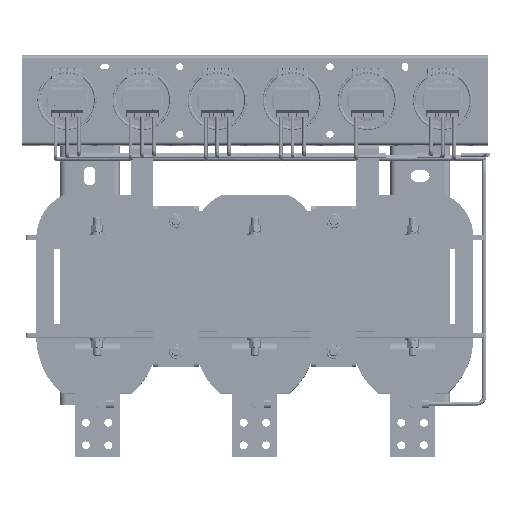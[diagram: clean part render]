
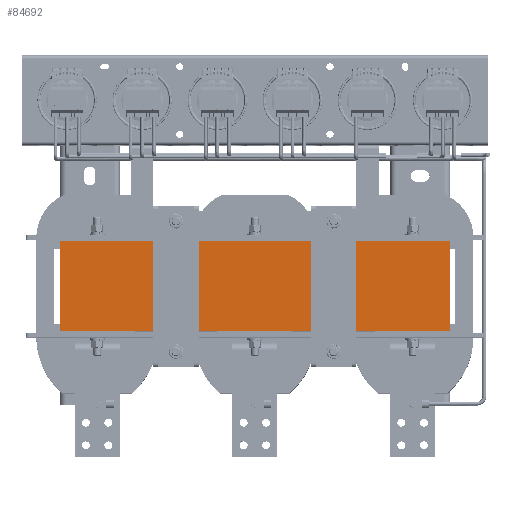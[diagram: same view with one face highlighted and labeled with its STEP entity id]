
A CAD part, top view. The second image highlights one B-rep face of the part: STEP entity #84692.
In plain terms, the highlighted planar face has unit normal (0, 0, 1).
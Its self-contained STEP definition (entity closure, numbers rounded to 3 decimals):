
#1260 = AXIS2_PLACEMENT_3D ( 'NONE', #156062, #172384, #227179 ) ;
#15214 = VERTEX_POINT ( 'NONE', #211780 ) ;
#22164 = CARTESIAN_POINT ( 'NONE',  ( -260., 150.916, 600. ) ) ;
#26474 = EDGE_CURVE ( 'NONE', #79391, #227457, #71241, .T. ) ;
#26600 = DIRECTION ( 'NONE',  ( 1., 0., 0. ) ) ;
#28699 = ORIENTED_EDGE ( 'NONE', *, *, #181039, .T. ) ;
#46350 = ORIENTED_EDGE ( 'NONE', *, *, #176826, .F. ) ;
#53721 = DIRECTION ( 'NONE',  ( 0., -1., 0. ) ) ;
#56923 = LINE ( 'NONE', #166370, #62195 ) ;
#62195 = VECTOR ( 'NONE', #26600, 1000. ) ;
#62669 = CARTESIAN_POINT ( 'NONE',  ( 0., 150.916, 600. ) ) ;
#64101 = EDGE_CURVE ( 'NONE', #211793, #15214, #198658, .T. ) ;
#68834 = VECTOR ( 'NONE', #148868, 1000. ) ;
#71241 = LINE ( 'NONE', #213337, #212757 ) ;
#78968 = LINE ( 'NONE', #62669, #68834 ) ;
#79391 = VERTEX_POINT ( 'NONE', #181355 ) ;
#84692 = ADVANCED_FACE ( 'NONE', ( #207416 ), #173536, .T. ) ;
#131582 = EDGE_LOOP ( 'NONE', ( #28699, #221681, #46350, #183689 ) ) ;
#138621 = VECTOR ( 'NONE', #167140, 1000. ) ;
#148525 = CARTESIAN_POINT ( 'NONE',  ( -260., 152.552, 600. ) ) ;
#148868 = DIRECTION ( 'NONE',  ( 1., 0., 0. ) ) ;
#156062 = CARTESIAN_POINT ( 'NONE',  ( -225., 152.552, 600. ) ) ;
#166370 = CARTESIAN_POINT ( 'NONE',  ( -225., 30.912, 600. ) ) ;
#167140 = DIRECTION ( 'NONE',  ( 0., -1., 0. ) ) ;
#172384 = DIRECTION ( 'NONE',  ( 0., 0., 1. ) ) ;
#173536 = PLANE ( 'NONE',  #1260 ) ;
#176826 = EDGE_CURVE ( 'NONE', #211793, #79391, #78968, .T. ) ;
#181039 = EDGE_CURVE ( 'NONE', #15214, #227457, #56923, .T. ) ;
#181355 = CARTESIAN_POINT ( 'NONE',  ( 260., 150.916, 600. ) ) ;
#183689 = ORIENTED_EDGE ( 'NONE', *, *, #64101, .T. ) ;
#192928 = CARTESIAN_POINT ( 'NONE',  ( 260., 30.912, 600. ) ) ;
#198658 = LINE ( 'NONE', #148525, #138621 ) ;
#207416 = FACE_OUTER_BOUND ( 'NONE', #131582, .T. ) ;
#211780 = CARTESIAN_POINT ( 'NONE',  ( -260., 30.912, 600. ) ) ;
#211793 = VERTEX_POINT ( 'NONE', #22164 ) ;
#212757 = VECTOR ( 'NONE', #53721, 1000. ) ;
#213337 = CARTESIAN_POINT ( 'NONE',  ( 260., 152.552, 600. ) ) ;
#221681 = ORIENTED_EDGE ( 'NONE', *, *, #26474, .F. ) ;
#227179 = DIRECTION ( 'NONE',  ( 1., 0., 0. ) ) ;
#227457 = VERTEX_POINT ( 'NONE', #192928 ) ;
